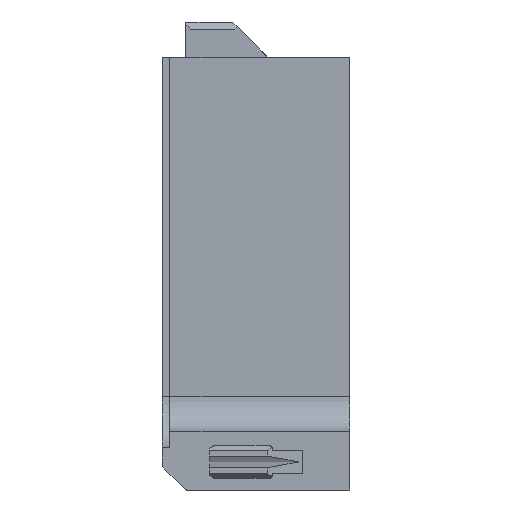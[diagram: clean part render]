
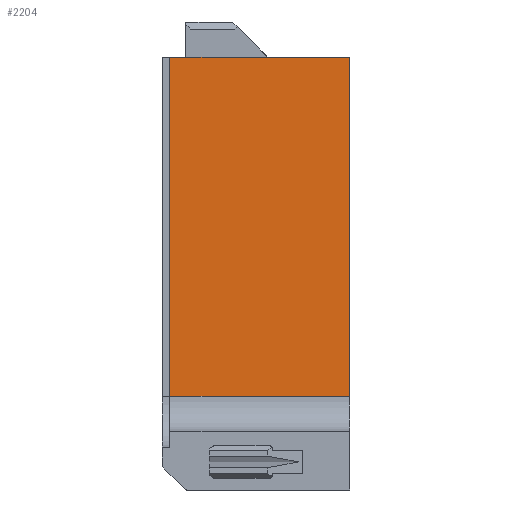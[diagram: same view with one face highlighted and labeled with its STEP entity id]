
A CAD part, left-side view. The second image highlights one B-rep face of the part: STEP entity #2204.
In plain terms, the highlighted planar face has unit normal (-1, 0, 0).
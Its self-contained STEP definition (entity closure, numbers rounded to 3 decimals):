
#55 = DIRECTION ( 'NONE',  ( -1., 0., 0. ) ) ;
#84 = PLANE ( 'NONE',  #435 ) ;
#149 = VECTOR ( 'NONE', #3213, 1000. ) ;
#156 = FACE_OUTER_BOUND ( 'NONE', #3306, .T. ) ;
#342 = EDGE_CURVE ( 'NONE', #2056, #1351, #3820, .T. ) ;
#350 = DIRECTION ( 'NONE',  ( 0., 0., 1. ) ) ;
#375 = CARTESIAN_POINT ( 'NONE',  ( 163.336, 76.8, -144.027 ) ) ;
#435 = AXIS2_PLACEMENT_3D ( 'NONE', #1853, #55, #350 ) ;
#617 = LINE ( 'NONE', #1127, #1189 ) ;
#946 = LINE ( 'NONE', #2673, #149 ) ;
#958 = ORIENTED_EDGE ( 'NONE', *, *, #3350, .T. ) ;
#1127 = CARTESIAN_POINT ( 'NONE',  ( 163.336, 80., -288.977 ) ) ;
#1136 = EDGE_CURVE ( 'NONE', #3071, #2056, #1997, .T. ) ;
#1189 = VECTOR ( 'NONE', #3211, 1000. ) ;
#1351 = VERTEX_POINT ( 'NONE', #2693 ) ;
#1756 = CARTESIAN_POINT ( 'NONE',  ( 163.336, 0., -144.027 ) ) ;
#1853 = CARTESIAN_POINT ( 'NONE',  ( 163.336, 80., 25.923 ) ) ;
#1927 = EDGE_CURVE ( 'NONE', #2036, #1351, #617, .T. ) ;
#1966 = DIRECTION ( 'NONE',  ( 0., -1., 0. ) ) ;
#1997 = LINE ( 'NONE', #2539, #3197 ) ;
#2036 = VERTEX_POINT ( 'NONE', #3805 ) ;
#2056 = VERTEX_POINT ( 'NONE', #1756 ) ;
#2146 = VECTOR ( 'NONE', #3341, 1000. ) ;
#2204 = ADVANCED_FACE ( 'NONE', ( #156 ), #84, .T. ) ;
#2483 = ORIENTED_EDGE ( 'NONE', *, *, #1927, .T. ) ;
#2539 = CARTESIAN_POINT ( 'NONE',  ( 163.336, 80., -144.027 ) ) ;
#2673 = CARTESIAN_POINT ( 'NONE',  ( 163.336, 76.8, 25.923 ) ) ;
#2693 = CARTESIAN_POINT ( 'NONE',  ( 163.336, 0., -288.977 ) ) ;
#2785 = CARTESIAN_POINT ( 'NONE',  ( 163.336, 0., 25.923 ) ) ;
#3071 = VERTEX_POINT ( 'NONE', #375 ) ;
#3197 = VECTOR ( 'NONE', #1966, 1000. ) ;
#3211 = DIRECTION ( 'NONE',  ( 0., -1., 0. ) ) ;
#3213 = DIRECTION ( 'NONE',  ( 0., 0., -1. ) ) ;
#3306 = EDGE_LOOP ( 'NONE', ( #3689, #958, #2483, #3594 ) ) ;
#3341 = DIRECTION ( 'NONE',  ( 0., 0., -1. ) ) ;
#3350 = EDGE_CURVE ( 'NONE', #3071, #2036, #946, .T. ) ;
#3594 = ORIENTED_EDGE ( 'NONE', *, *, #342, .F. ) ;
#3689 = ORIENTED_EDGE ( 'NONE', *, *, #1136, .F. ) ;
#3805 = CARTESIAN_POINT ( 'NONE',  ( 163.336, 76.8, -288.977 ) ) ;
#3820 = LINE ( 'NONE', #2785, #2146 ) ;
